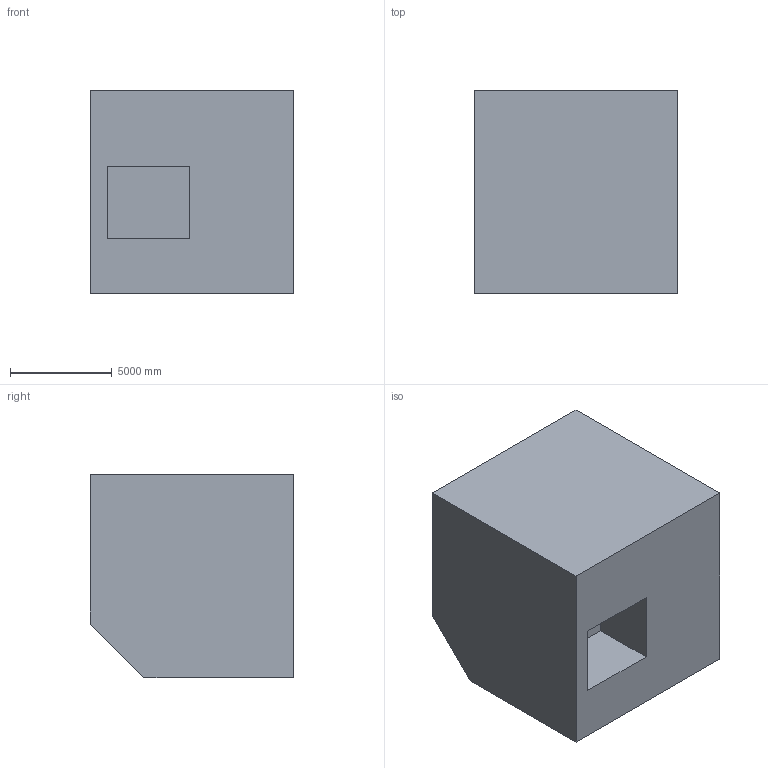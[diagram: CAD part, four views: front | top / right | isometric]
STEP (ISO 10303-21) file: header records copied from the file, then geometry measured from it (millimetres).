
FILE_DESCRIPTION (( 'STEP AP203' ), '1' );
FILE_NAME ('28.STEP', '2022-09-02T13:43:59', ( 'user' ), ( '' ), 'SwSTEP 2.0', 'SolidWorks 2021', '' );
FILE_SCHEMA (( 'CONFIG_CONTROL_DESIGN' ));
Length unit declared in the file: centimetre
Products named in the file (1): 28
Bounding box: 10000 x 10000 x 10000 mm (x, y, z)
Volume: 915526194711.9 mm3; surface area: 645986869.5 mm2
Topology: 1 solids, 1 shells, 19 faces, 48 edges, 32 vertices
Faces by surface type: plane 19
Entity records: 639 total; most frequent: CARTESIAN_POINT 100, ORIENTED_EDGE 96, DIRECTION 88, EDGE_CURVE 48, VECTOR 48, LINE 48, VERTEX_POINT 32, EDGE_LOOP 20
